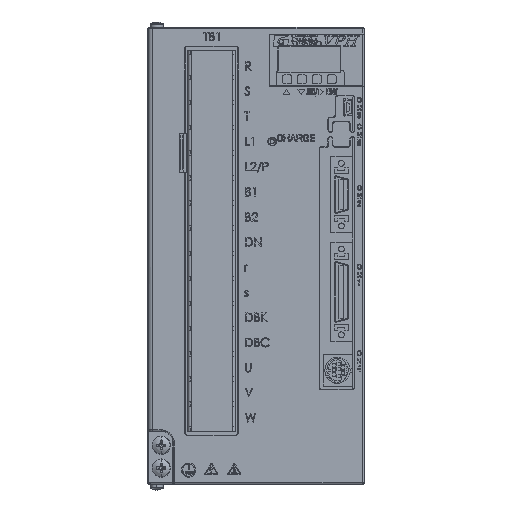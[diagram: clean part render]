
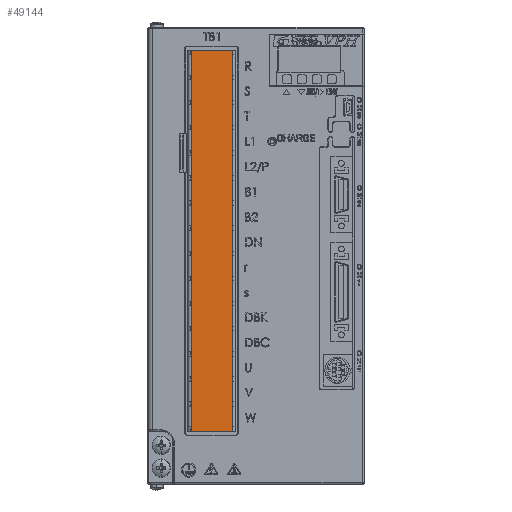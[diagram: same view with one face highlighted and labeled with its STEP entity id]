
A CAD part, top view. The second image highlights one B-rep face of the part: STEP entity #49144.
In plain terms, the highlighted planar face has unit normal (0, 0, 1).
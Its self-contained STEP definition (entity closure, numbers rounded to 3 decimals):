
#9968 = EDGE_CURVE ( 'NONE', #23823, #12735, #201902, .T. ) ;
#10403 = DIRECTION ( 'NONE',  ( 0., -1., 0. ) ) ;
#12735 = VERTEX_POINT ( 'NONE', #141609 ) ;
#20222 = CARTESIAN_POINT ( 'NONE',  ( 36.15, 23., 194.2 ) ) ;
#23823 = VERTEX_POINT ( 'NONE', #75310 ) ;
#26250 = CARTESIAN_POINT ( 'NONE',  ( 36.15, 23., 194.2 ) ) ;
#27659 = CARTESIAN_POINT ( 'NONE',  ( 36.15, 190., 194.2 ) ) ;
#34741 = CARTESIAN_POINT ( 'NONE',  ( 18.05, 23., 194.2 ) ) ;
#49144 = ADVANCED_FACE ( 'NONE', ( #127889 ), #225540, .F. ) ;
#60673 = DIRECTION ( 'NONE',  ( -1., 0., 0. ) ) ;
#65736 = LINE ( 'NONE', #104494, #123857 ) ;
#70543 = ORIENTED_EDGE ( 'NONE', *, *, #9968, .F. ) ;
#75310 = CARTESIAN_POINT ( 'NONE',  ( 18.05, 23., 194.2 ) ) ;
#82282 = EDGE_CURVE ( 'NONE', #211394, #12735, #65736, .T. ) ;
#104494 = CARTESIAN_POINT ( 'NONE',  ( 36.15, 190., 194.2 ) ) ;
#117476 = DIRECTION ( 'NONE',  ( 0., 0., -1. ) ) ;
#123857 = VECTOR ( 'NONE', #60673, 1000. ) ;
#126781 = LINE ( 'NONE', #160296, #222509 ) ;
#127889 = FACE_OUTER_BOUND ( 'NONE', #190045, .T. ) ;
#128646 = AXIS2_PLACEMENT_3D ( 'NONE', #269655, #117476, #10403 ) ;
#141609 = CARTESIAN_POINT ( 'NONE',  ( 18.05, 190., 194.2 ) ) ;
#160296 = CARTESIAN_POINT ( 'NONE',  ( 36.15, 23., 194.2 ) ) ;
#165722 = EDGE_CURVE ( 'NONE', #261625, #211394, #126781, .T. ) ;
#177414 = VECTOR ( 'NONE', #186779, 1000. ) ;
#183354 = DIRECTION ( 'NONE',  ( 0., 1., 0. ) ) ;
#186779 = DIRECTION ( 'NONE',  ( -1., 0., 0. ) ) ;
#190045 = EDGE_LOOP ( 'NONE', ( #212009, #70543, #253428, #244439 ) ) ;
#191443 = DIRECTION ( 'NONE',  ( 0., 1., 0. ) ) ;
#201902 = LINE ( 'NONE', #34741, #256837 ) ;
#211394 = VERTEX_POINT ( 'NONE', #27659 ) ;
#212009 = ORIENTED_EDGE ( 'NONE', *, *, #82282, .T. ) ;
#222509 = VECTOR ( 'NONE', #183354, 1000. ) ;
#225540 = PLANE ( 'NONE',  #128646 ) ;
#244439 = ORIENTED_EDGE ( 'NONE', *, *, #165722, .T. ) ;
#253428 = ORIENTED_EDGE ( 'NONE', *, *, #281044, .F. ) ;
#256166 = LINE ( 'NONE', #26250, #177414 ) ;
#256837 = VECTOR ( 'NONE', #191443, 1000. ) ;
#261625 = VERTEX_POINT ( 'NONE', #20222 ) ;
#269655 = CARTESIAN_POINT ( 'NONE',  ( 36.15, 23., 194.2 ) ) ;
#281044 = EDGE_CURVE ( 'NONE', #261625, #23823, #256166, .T. ) ;
